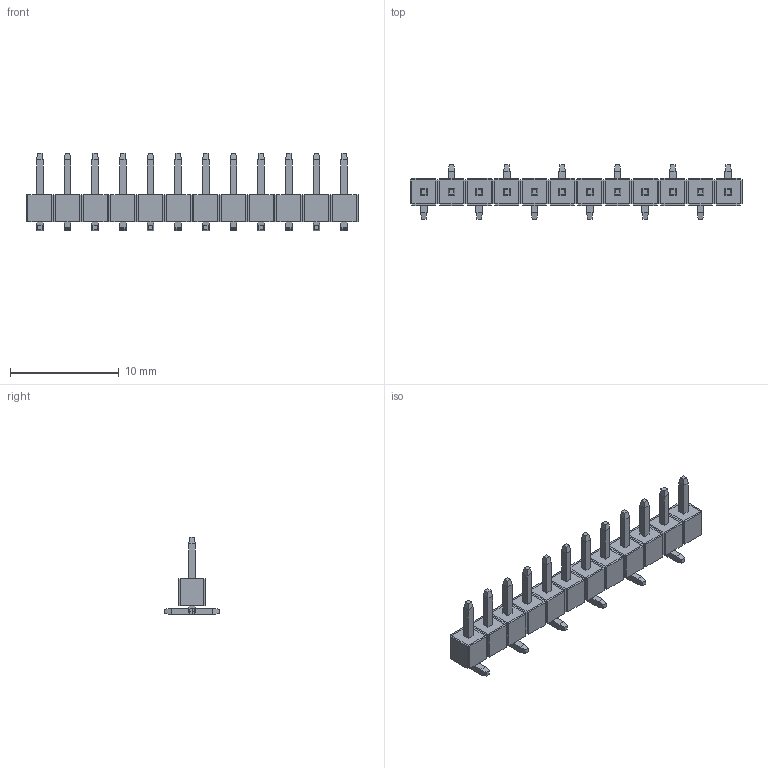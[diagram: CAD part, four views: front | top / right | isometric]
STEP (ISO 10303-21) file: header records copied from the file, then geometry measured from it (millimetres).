
FILE_DESCRIPTION(('FreeCAD Model'),'2;1');
FILE_NAME('Open CASCADE Shape Model','2021-08-03T16:10:41',('Author'),( ''),'Open CASCADE STEP processor 7.5','FreeCAD','Unknown');
FILE_SCHEMA(('AUTOMOTIVE_DESIGN { 1 0 10303 214 1 1 1 1 }'));
Products named in the file (1): Group012
Bounding box: 30.48 x 5 x 7.1 mm (x, y, z)
Volume: 217.8 mm3; surface area: 520.1 mm2
Topology: 1 solids, 1 shells, 794 faces, 2644 edges, 1876 vertices
Faces by surface type: plane 794
Entity records: 66918 total; most frequent: CARTESIAN_POINT 10795, DIRECTION 9330, LINE 7740, VECTOR 7740, ORIENTED_EDGE 5288, PCURVE 5288, DEFINITIONAL_REPRESENTATION 5288, EDGE_CURVE 2644
